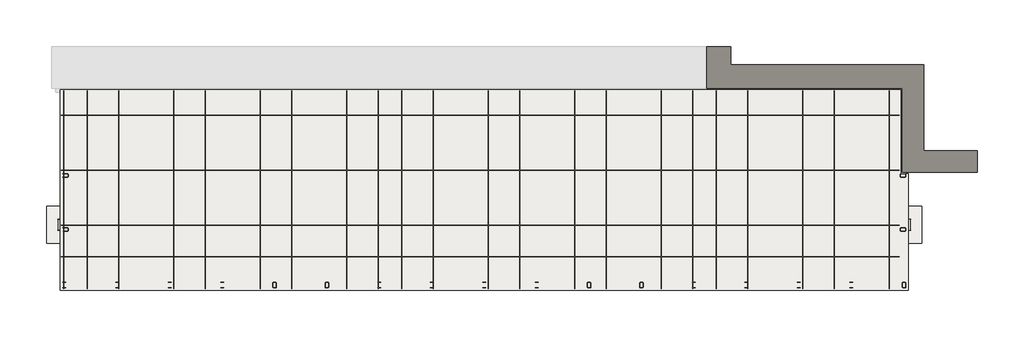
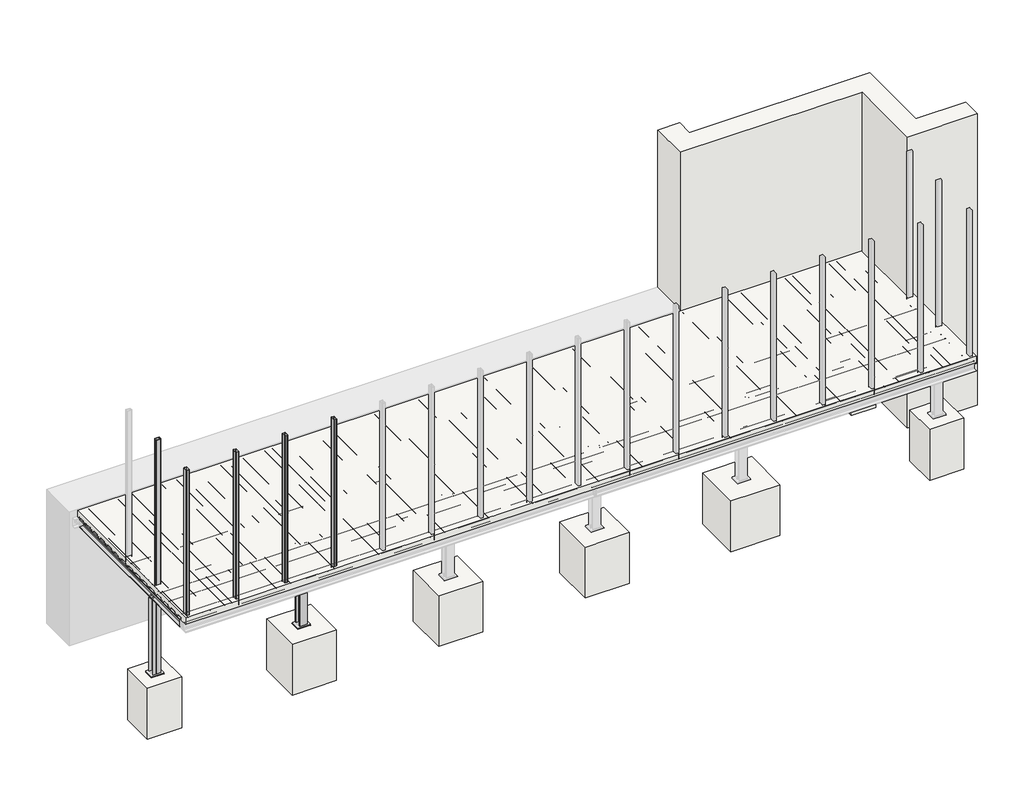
# One storey, part 1 of 36: 26 beams, 9 slabs, 7 columns, 2 plates.
"""IFC4 building model written with IfcOpenShell, lengths in millimetres."""

from ifc_helpers import new_model, si_unit, point, frame, frame_2d, origin, place, context, project, spatial, polyline, circle_curve, trimmed, segment, composite_curve, outline, extrude, faceted_brep, element, save

model = new_model("IFC4")

# Units and contexts
model_context = context("Model", 3, world=origin())
ifc_project = project(units=[si_unit("LENGTHUNIT", "METRE", prefix="MILLI")], contexts=[model_context])

# Site, building, storey
site = spatial("IfcSite", under=ifc_project)
building = spatial("IfcBuilding", under=site)
storey = spatial("IfcBuildingStorey", under=building, Name="Základy", Elevation=-1200.0)

# Beams
placement = place(None, origin())
element("IfcBeam", 1, ObjectType="D8", at=placement, inside=storey, context=model_context, shape_type="SweptSolid", body=[
    extrude(outline(composite_curve([segment(trimmed(circle_curve(frame_2d((-49.0, 27.5)), 4.0), [point((-49.0, 23.5))], [point((-49.0, 31.5))], False, "CARTESIAN"), True, "CONTINUOUS"), segment(trimmed(circle_curve(frame_2d((-49.0, 27.5)), 4.0), [point((-49.0, 31.5))], [point((-49.0, 23.5))], False, "CARTESIAN"), True, "CONTINUOUS")], self_intersect=False)), frame((0.0, 35.0, 0.0), z_axis=(0.0, 1.0, 0.0), x_axis=(0.0, 0.0, 1.0)), (0.0, 0.0, 1.0), 3780.0),
])
element("IfcBeam", 2, ObjectType="D8", at=placement, inside=storey, context=model_context, shape_type="SweptSolid", body=[
    extrude(outline(composite_curve([segment(trimmed(circle_curve(frame_2d((-49.0, 177.5)), 4.0), [point((-49.0, 173.5))], [point((-49.0, 181.5))], False, "CARTESIAN"), True, "CONTINUOUS"), segment(trimmed(circle_curve(frame_2d((-49.0, 177.5)), 4.0), [point((-49.0, 181.5))], [point((-49.0, 173.5))], False, "CARTESIAN"), True, "CONTINUOUS")], self_intersect=False)), frame((0.0, 35.0, 0.0), z_axis=(0.0, 1.0, 0.0), x_axis=(0.0, 0.0, 1.0)), (0.0, 0.0, 1.0), 3780.0),
])
element("IfcBeam", 3, ObjectType="D8", at=placement, inside=storey, context=model_context, shape_type="SweptSolid", body=[
    extrude(outline(composite_curve([segment(trimmed(circle_curve(frame_2d((-49.0, 327.5)), 4.0), [point((-49.0, 323.5))], [point((-49.0, 331.5))], False, "CARTESIAN"), True, "CONTINUOUS"), segment(trimmed(circle_curve(frame_2d((-49.0, 327.5)), 4.0), [point((-49.0, 331.5))], [point((-49.0, 323.5))], False, "CARTESIAN"), True, "CONTINUOUS")], self_intersect=False)), frame((0.0, 35.0, 0.0), z_axis=(0.0, 1.0, 0.0), x_axis=(0.0, 0.0, 1.0)), (0.0, 0.0, 1.0), 3780.0),
])
element("IfcBeam", 4, ObjectType="D8", at=placement, inside=storey, context=model_context, shape_type="SweptSolid", body=[
    extrude(outline(composite_curve([segment(trimmed(circle_curve(frame_2d((-49.0, 477.5)), 4.0), [point((-49.0, 473.5))], [point((-49.0, 481.5))], False, "CARTESIAN"), True, "CONTINUOUS"), segment(trimmed(circle_curve(frame_2d((-49.0, 477.5)), 4.0), [point((-49.0, 481.5))], [point((-49.0, 473.5))], False, "CARTESIAN"), True, "CONTINUOUS")], self_intersect=False)), frame((0.0, 35.0, 0.0), z_axis=(0.0, 1.0, 0.0), x_axis=(0.0, 0.0, 1.0)), (0.0, 0.0, 1.0), 3780.0),
])
element("IfcBeam", 5, ObjectType="D8", at=placement, inside=storey, context=model_context, shape_type="SweptSolid", body=[
    extrude(outline(composite_curve([segment(trimmed(circle_curve(frame_2d((-49.0, 627.5)), 4.0), [point((-49.0, 623.5))], [point((-49.0, 631.5))], False, "CARTESIAN"), True, "CONTINUOUS"), segment(trimmed(circle_curve(frame_2d((-49.0, 627.5)), 4.0), [point((-49.0, 631.5))], [point((-49.0, 623.5))], False, "CARTESIAN"), True, "CONTINUOUS")], self_intersect=False)), frame((0.0, 35.0, 0.0), z_axis=(0.0, 1.0, 0.0), x_axis=(0.0, 0.0, 1.0)), (0.0, 0.0, 1.0), 3780.0),
])
element("IfcBeam", 6, ObjectType="D8", at=placement, inside=storey, context=model_context, shape_type="SweptSolid", body=[
    extrude(outline(composite_curve([segment(trimmed(circle_curve(frame_2d((-49.0, 777.5)), 4.0), [point((-49.0, 773.5))], [point((-49.0, 781.5))], False, "CARTESIAN"), True, "CONTINUOUS"), segment(trimmed(circle_curve(frame_2d((-49.0, 777.5)), 4.0), [point((-49.0, 781.5))], [point((-49.0, 773.5))], False, "CARTESIAN"), True, "CONTINUOUS")], self_intersect=False)), frame((0.0, 35.0, 0.0), z_axis=(0.0, 1.0, 0.0), x_axis=(0.0, 0.0, 1.0)), (0.0, 0.0, 1.0), 3780.0),
])
element("IfcBeam", 7, ObjectType="D8", at=placement, inside=storey, context=model_context, shape_type="SweptSolid", body=[
    extrude(outline(composite_curve([segment(trimmed(circle_curve(frame_2d((-49.0, 927.5)), 4.0), [point((-49.0, 923.5))], [point((-49.0, 931.5))], False, "CARTESIAN"), True, "CONTINUOUS"), segment(trimmed(circle_curve(frame_2d((-49.0, 927.5)), 4.0), [point((-49.0, 931.5))], [point((-49.0, 923.5))], False, "CARTESIAN"), True, "CONTINUOUS")], self_intersect=False)), frame((0.0, 35.0, 0.0), z_axis=(0.0, 1.0, 0.0), x_axis=(0.0, 0.0, 1.0)), (0.0, 0.0, 1.0), 3780.0),
])
element("IfcBeam", 8, ObjectType="D8", at=placement, inside=storey, context=model_context, shape_type="SweptSolid", body=[
    extrude(outline(composite_curve([segment(trimmed(circle_curve(frame_2d((-49.0, 1077.5)), 4.0), [point((-49.0, 1073.5))], [point((-49.0, 1081.5))], False, "CARTESIAN"), True, "CONTINUOUS"), segment(trimmed(circle_curve(frame_2d((-49.0, 1077.5)), 4.0), [point((-49.0, 1081.5))], [point((-49.0, 1073.5))], False, "CARTESIAN"), True, "CONTINUOUS")], self_intersect=False)), frame((0.0, 35.0, 0.0), z_axis=(0.0, 1.0, 0.0), x_axis=(0.0, 0.0, 1.0)), (0.0, 0.0, 1.0), 3780.0),
])
element("IfcBeam", 9, ObjectType="D8", at=placement, inside=storey, context=model_context, shape_type="SweptSolid", body=[
    extrude(outline(composite_curve([segment(trimmed(circle_curve(frame_2d((-49.0, 1227.5)), 4.0), [point((-49.0, 1223.5))], [point((-49.0, 1231.5))], False, "CARTESIAN"), True, "CONTINUOUS"), segment(trimmed(circle_curve(frame_2d((-49.0, 1227.5)), 4.0), [point((-49.0, 1231.5))], [point((-49.0, 1223.5))], False, "CARTESIAN"), True, "CONTINUOUS")], self_intersect=False)), frame((0.0, 35.0, 0.0), z_axis=(0.0, 1.0, 0.0), x_axis=(0.0, 0.0, 1.0)), (0.0, 0.0, 1.0), 3780.0),
])
element("IfcBeam", 10, ObjectType="D8", at=placement, inside=storey, context=model_context, shape_type="SweptSolid", body=[
    extrude(outline(composite_curve([segment(trimmed(circle_curve(frame_2d((-49.0, 1377.5)), 4.0), [point((-49.0, 1373.5))], [point((-49.0, 1381.5))], False, "CARTESIAN"), True, "CONTINUOUS"), segment(trimmed(circle_curve(frame_2d((-49.0, 1377.5)), 4.0), [point((-49.0, 1381.5))], [point((-49.0, 1373.5))], False, "CARTESIAN"), True, "CONTINUOUS")], self_intersect=False)), frame((0.0, 35.0, 0.0), z_axis=(0.0, 1.0, 0.0), x_axis=(0.0, 0.0, 1.0)), (0.0, 0.0, 1.0), 3780.0),
])
element("IfcBeam", 11, ObjectType="D8", at=placement, inside=storey, context=model_context, shape_type="SweptSolid", body=[
    extrude(outline(composite_curve([segment(trimmed(circle_curve(frame_2d((-49.0, 1527.5)), 4.0), [point((-49.0, 1523.5))], [point((-49.0, 1531.5))], False, "CARTESIAN"), True, "CONTINUOUS"), segment(trimmed(circle_curve(frame_2d((-49.0, 1527.5)), 4.0), [point((-49.0, 1531.5))], [point((-49.0, 1523.5))], False, "CARTESIAN"), True, "CONTINUOUS")], self_intersect=False)), frame((0.0, 35.0, 0.0), z_axis=(0.0, 1.0, 0.0), x_axis=(0.0, 0.0, 1.0)), (0.0, 0.0, 1.0), 3780.0),
])
element("IfcBeam", 12, ObjectType="D8", at=placement, inside=storey, context=model_context, shape_type="SweptSolid", body=[
    extrude(outline(composite_curve([segment(trimmed(circle_curve(frame_2d((-49.0, 1677.5)), 4.0), [point((-49.0, 1673.5))], [point((-49.0, 1681.5))], False, "CARTESIAN"), True, "CONTINUOUS"), segment(trimmed(circle_curve(frame_2d((-49.0, 1677.5)), 4.0), [point((-49.0, 1681.5))], [point((-49.0, 1673.5))], False, "CARTESIAN"), True, "CONTINUOUS")], self_intersect=False)), frame((0.0, 35.0, 0.0), z_axis=(0.0, 1.0, 0.0), x_axis=(0.0, 0.0, 1.0)), (0.0, 0.0, 1.0), 3780.0),
])
element("IfcBeam", 13, ObjectType="D8", at=placement, inside=storey, context=model_context, shape_type="SweptSolid", body=[
    extrude(outline(composite_curve([segment(trimmed(circle_curve(frame_2d((-49.0, 1827.5)), 4.0), [point((-49.0, 1823.5))], [point((-49.0, 1831.5))], False, "CARTESIAN"), True, "CONTINUOUS"), segment(trimmed(circle_curve(frame_2d((-49.0, 1827.5)), 4.0), [point((-49.0, 1831.5))], [point((-49.0, 1823.5))], False, "CARTESIAN"), True, "CONTINUOUS")], self_intersect=False)), frame((0.0, 35.0, 0.0), z_axis=(0.0, 1.0, 0.0), x_axis=(0.0, 0.0, 1.0)), (0.0, 0.0, 1.0), 3780.0),
])
element("IfcBeam", 14, ObjectType="D8", at=placement, inside=storey, context=model_context, shape_type="SweptSolid", body=[
    extrude(outline(composite_curve([segment(trimmed(circle_curve(frame_2d((-49.0, 1977.5)), 4.0), [point((-49.0, 1973.5))], [point((-49.0, 1981.5))], False, "CARTESIAN"), True, "CONTINUOUS"), segment(trimmed(circle_curve(frame_2d((-49.0, 1977.5)), 4.0), [point((-49.0, 1981.5))], [point((-49.0, 1973.5))], False, "CARTESIAN"), True, "CONTINUOUS")], self_intersect=False)), frame((0.0, 35.0, 0.0), z_axis=(0.0, 1.0, 0.0), x_axis=(0.0, 0.0, 1.0)), (0.0, 0.0, 1.0), 3780.0),
])
element("IfcBeam", 15, ObjectType="D8", at=placement, inside=storey, context=model_context, shape_type="SweptSolid", body=[
    extrude(outline(composite_curve([segment(trimmed(circle_curve(frame_2d((-49.0, 2127.5)), 4.0), [point((-49.0, 2123.5))], [point((-49.0, 2131.5))], False, "CARTESIAN"), True, "CONTINUOUS"), segment(trimmed(circle_curve(frame_2d((-49.0, 2127.5)), 4.0), [point((-49.0, 2131.5))], [point((-49.0, 2123.5))], False, "CARTESIAN"), True, "CONTINUOUS")], self_intersect=False)), frame((0.0, 35.0, 0.0), z_axis=(0.0, 1.0, 0.0), x_axis=(0.0, 0.0, 1.0)), (0.0, 0.0, 1.0), 3780.0),
])
element("IfcBeam", 16, ObjectType="D8", at=placement, inside=storey, context=model_context, shape_type="SweptSolid", body=[
    extrude(outline(composite_curve([segment(trimmed(circle_curve(frame_2d((-49.0, 2277.5)), 4.0), [point((-49.0, 2273.5))], [point((-49.0, 2281.5))], False, "CARTESIAN"), True, "CONTINUOUS"), segment(trimmed(circle_curve(frame_2d((-49.0, 2277.5)), 4.0), [point((-49.0, 2281.5))], [point((-49.0, 2273.5))], False, "CARTESIAN"), True, "CONTINUOUS")], self_intersect=False)), frame((0.0, 35.0, 0.0), z_axis=(0.0, 1.0, 0.0), x_axis=(0.0, 0.0, 1.0)), (0.0, 0.0, 1.0), 3780.0),
])
element("IfcBeam", 17, ObjectType="D8", at=placement, inside=storey, context=model_context, shape_type="SweptSolid", body=[
    extrude(outline(composite_curve([segment(trimmed(circle_curve(frame_2d((-49.0, 2427.5)), 4.0), [point((-49.0, 2423.5))], [point((-49.0, 2431.5))], False, "CARTESIAN"), True, "CONTINUOUS"), segment(trimmed(circle_curve(frame_2d((-49.0, 2427.5)), 4.0), [point((-49.0, 2431.5))], [point((-49.0, 2423.5))], False, "CARTESIAN"), True, "CONTINUOUS")], self_intersect=False)), frame((0.0, 35.0, 0.0), z_axis=(0.0, 1.0, 0.0), x_axis=(0.0, 0.0, 1.0)), (0.0, 0.0, 1.0), 3780.0),
])
element("IfcBeam", 18, ObjectType="D8", at=placement, inside=storey, context=model_context, shape_type="SweptSolid", body=[
    extrude(outline(composite_curve([segment(trimmed(circle_curve(frame_2d((-49.0, 2577.5)), 4.0), [point((-49.0, 2573.5))], [point((-49.0, 2581.5))], False, "CARTESIAN"), True, "CONTINUOUS"), segment(trimmed(circle_curve(frame_2d((-49.0, 2577.5)), 4.0), [point((-49.0, 2581.5))], [point((-49.0, 2573.5))], False, "CARTESIAN"), True, "CONTINUOUS")], self_intersect=False)), frame((0.0, 35.0, 0.0), z_axis=(0.0, 1.0, 0.0), x_axis=(0.0, 0.0, 1.0)), (0.0, 0.0, 1.0), 3780.0),
])
element("IfcBeam", 19, ObjectType="D8", at=placement, inside=storey, context=model_context, shape_type="SweptSolid", body=[
    extrude(outline(composite_curve([segment(trimmed(circle_curve(frame_2d((-49.0, 2727.5)), 4.0), [point((-49.0, 2723.5))], [point((-49.0, 2731.5))], False, "CARTESIAN"), True, "CONTINUOUS"), segment(trimmed(circle_curve(frame_2d((-49.0, 2727.5)), 4.0), [point((-49.0, 2731.5))], [point((-49.0, 2723.5))], False, "CARTESIAN"), True, "CONTINUOUS")], self_intersect=False)), frame((0.0, 35.0, 0.0), z_axis=(0.0, 1.0, 0.0), x_axis=(0.0, 0.0, 1.0)), (0.0, 0.0, 1.0), 3780.0),
])
element("IfcBeam", 20, ObjectType="D8", at=placement, inside=storey, context=model_context, shape_type="SweptSolid", body=[
    extrude(outline(composite_curve([segment(trimmed(circle_curve(frame_2d((-49.0, 2877.5)), 4.0), [point((-49.0, 2873.5))], [point((-49.0, 2881.5))], False, "CARTESIAN"), True, "CONTINUOUS"), segment(trimmed(circle_curve(frame_2d((-49.0, 2877.5)), 4.0), [point((-49.0, 2881.5))], [point((-49.0, 2873.5))], False, "CARTESIAN"), True, "CONTINUOUS")], self_intersect=False)), frame((0.0, 35.0, 0.0), z_axis=(0.0, 1.0, 0.0), x_axis=(0.0, 0.0, 1.0)), (0.0, 0.0, 1.0), 3780.0),
])
element("IfcBeam", 21, ObjectType="D8", at=placement, inside=storey, context=model_context, shape_type="SweptSolid", body=[
    extrude(outline(composite_curve([segment(trimmed(circle_curve(frame_2d((-49.0, 3027.5)), 4.0), [point((-49.0, 3023.5))], [point((-49.0, 3031.5))], False, "CARTESIAN"), True, "CONTINUOUS"), segment(trimmed(circle_curve(frame_2d((-49.0, 3027.5)), 4.0), [point((-49.0, 3031.5))], [point((-49.0, 3023.5))], False, "CARTESIAN"), True, "CONTINUOUS")], self_intersect=False)), frame((0.0, 35.0, 0.0), z_axis=(0.0, 1.0, 0.0), x_axis=(0.0, 0.0, 1.0)), (0.0, 0.0, 1.0), 3780.0),
])
element("IfcBeam", 22, ObjectType="HEA120", at=placement, inside=storey, context=model_context, shape_type="SweptSolid", body=[
    extrude(outline(composite_curve([segment(polyline([(1200.0, -193.0), (1320.0, -193.0), (1320.0, -201.0), (1274.5, -201.0)]), True, "CONTINUOUS"), segment(trimmed(circle_curve(frame_2d((1274.5, -213.0)), 12.0), [point((1274.5, -201.0))], [point((1262.5, -213.0))], True, "CARTESIAN"), True, "CONTINUOUS"), segment(polyline([(1262.5, -213.0), (1262.5, -287.0)]), True, "CONTINUOUS"), segment(trimmed(circle_curve(frame_2d((1274.5, -287.0)), 12.0), [point((1262.5, -287.0))], [point((1274.5, -299.0))], True, "CARTESIAN"), True, "CONTINUOUS"), segment(polyline([(1274.5, -299.0), (1320.0, -299.0), (1320.0, -307.0), (1200.0, -307.0), (1200.0, -299.0), (1245.5, -299.0)]), True, "CONTINUOUS"), segment(trimmed(circle_curve(frame_2d((1245.5, -287.0)), 12.0), [point((1245.5, -299.0))], [point((1257.5, -287.0))], True, "CARTESIAN"), True, "CONTINUOUS"), segment(polyline([(1257.5, -287.0), (1257.5, -213.0)]), True, "CONTINUOUS"), segment(trimmed(circle_curve(frame_2d((1245.5, -213.0)), 12.0), [point((1257.5, -213.0))], [point((1245.5, -201.0))], True, "CARTESIAN"), True, "CONTINUOUS"), segment(polyline([(1245.5, -201.0), (1200.0, -201.0), (1200.0, -193.0)]), True, "CONTINUOUS")], self_intersect=False)), frame((160.0, 0.0, 0.0), z_axis=(1.0, 0.0, 0.0), x_axis=(0.0, 1.0, 0.0)), (0.0, 0.0, 1.0), 2780.0),
])
element("IfcBeam", 23, ObjectType="HEB180", at=placement, inside=storey, context=model_context, shape_type="SweptSolid", body=[
    extrude(outline(composite_curve([segment(polyline([(-340.0, 3140.0), (-326.0, 3140.0), (-326.0, 3069.25)]), True, "CONTINUOUS"), segment(trimmed(circle_curve(frame_2d((-311.0, 3069.25)), 15.0), [point((-326.0, 3069.25))], [point((-311.0, 3054.25))], True, "CARTESIAN"), True, "CONTINUOUS"), segment(polyline([(-311.0, 3054.25), (-189.0, 3054.25)]), True, "CONTINUOUS"), segment(trimmed(circle_curve(frame_2d((-189.0, 3069.25)), 15.0), [point((-189.0, 3054.25))], [point((-174.0, 3069.25))], True, "CARTESIAN"), True, "CONTINUOUS"), segment(polyline([(-174.0, 3069.25), (-174.0, 3140.0), (-160.0, 3140.0), (-160.0, 2960.0), (-174.0, 2960.0), (-174.0, 3030.75)]), True, "CONTINUOUS"), segment(trimmed(circle_curve(frame_2d((-189.0, 3030.75)), 15.0), [point((-174.0, 3030.75))], [point((-189.0, 3045.75))], True, "CARTESIAN"), True, "CONTINUOUS"), segment(polyline([(-189.0, 3045.75), (-311.0, 3045.75)]), True, "CONTINUOUS"), segment(trimmed(circle_curve(frame_2d((-311.0, 3030.75)), 15.0), [point((-311.0, 3045.75))], [point((-326.0, 3030.75))], True, "CARTESIAN"), True, "CONTINUOUS"), segment(polyline([(-326.0, 3030.75), (-326.0, 2960.0), (-340.0, 2960.0), (-340.0, 3140.0)]), True, "CONTINUOUS")], self_intersect=False)), frame((0.0, 210.0, 0.0), z_axis=(0.0, 1.0, 0.0), x_axis=(0.0, 0.0, 1.0)), (0.0, 0.0, 1.0), 3557.0),
])
element("IfcBeam", 24, ObjectType="HEB180", at=placement, inside=storey, context=model_context, shape_type="SweptSolid", body=[
    extrude(outline(composite_curve([segment(polyline([(-340.0, -40.0), (-340.0, 140.0), (-326.0, 140.0), (-326.0, 69.25)]), True, "CONTINUOUS"), segment(trimmed(circle_curve(frame_2d((-311.0, 69.25)), 15.0), [point((-326.0, 69.25))], [point((-311.0, 54.25))], True, "CARTESIAN"), True, "CONTINUOUS"), segment(polyline([(-311.0, 54.25), (-189.0, 54.25)]), True, "CONTINUOUS"), segment(trimmed(circle_curve(frame_2d((-189.0, 69.25)), 15.0), [point((-189.0, 54.25))], [point((-174.0, 69.25))], True, "CARTESIAN"), True, "CONTINUOUS"), segment(polyline([(-174.0, 69.25), (-174.0, 140.0), (-160.0, 140.0), (-160.0, -40.0), (-174.0, -40.0), (-174.0, 30.75)]), True, "CONTINUOUS"), segment(trimmed(circle_curve(frame_2d((-189.0, 30.75)), 15.0), [point((-174.0, 30.75))], [point((-189.0, 45.75))], True, "CARTESIAN"), True, "CONTINUOUS"), segment(polyline([(-189.0, 45.75), (-311.0, 45.75)]), True, "CONTINUOUS"), segment(trimmed(circle_curve(frame_2d((-311.0, 30.75)), 15.0), [point((-311.0, 45.75))], [point((-326.0, 30.75))], True, "CARTESIAN"), True, "CONTINUOUS"), segment(polyline([(-326.0, 30.75), (-326.0, -40.0), (-340.0, -40.0)]), True, "CONTINUOUS")], self_intersect=False)), frame((0.0, 210.0, 0.0), z_axis=(0.0, 1.0, 0.0), x_axis=(0.0, 0.0, 1.0)), (0.0, 0.0, 1.0), 3557.0),
])
element("IfcBeam", 25, ObjectType="TR50/250", at=placement, inside=storey, context=model_context, shape_type="SweptSolid", body=[
    extrude(outline(polyline([(1802.7875602, -160.0099992), (1772.2875602, -111.5000008), (1637.6975638, -111.5000008), (1607.1975638, -160.0000008), (1552.7875754, -160.0000008), (1522.2875754, -111.5000008), (1387.6975715, -111.5000008), (1357.1975715, -160.0000008), (1302.7875697, -160.0000008), (1272.2875716, -111.5000008), (1137.6975638, -111.5000008), (1107.1975638, -160.0000008), (1052.7875602, -160.0000008), (1022.2875602, -111.5000008), (887.6975638, -111.5000008), (857.1975638, -160.0000008), (802.7875602, -160.0000008), (790.7375724, -139.4300002), (803.1975638, -159.2500008), (856.7875602, -159.2500008), (887.2875602, -110.7500008), (1022.6975638, -110.7500008), (1053.1975638, -159.2500008), (1106.7875754, -159.2500008), (1137.2875754, -110.7500008), (1272.6975715, -110.7500008), (1303.1975695, -159.2500008), (1356.7875716, -159.2500008), (1387.2875678, -110.7500008), (1522.6975638, -110.7500008), (1553.1975638, -159.2500008), (1606.7875602, -159.2500008), (1637.2875602, -110.7500008), (1772.6975638, -110.7500008), (1803.1975638, -159.2500008), (1839.9975821, -160.0000008), (1802.7875602, -160.0099992)])), frame((-40.0, 0.0, 0.0), z_axis=(1.0, 0.0, 0.0), x_axis=(0.0, 1.0, 0.0)), (0.0, 0.0, 1.0), 3180.0),
])
element("IfcBeam", 26, ObjectType="TR50/250", at=placement, inside=storey, context=model_context, shape_type="SweptSolid", body=[
    extrude(outline(polyline([(802.7875602, -160.0099992), (772.2875602, -111.5000008), (637.6975638, -111.5000008), (607.1975638, -160.0000008), (552.7875754, -160.0000008), (522.2875754, -111.5000008), (387.6975715, -111.5000008), (357.1975715, -160.0000008), (302.7875697, -160.0000008), (272.2875716, -111.5000008), (160.0, -111.5000008), (160.0, -110.7500008), (272.6975715, -110.7500008), (303.1975695, -159.2500008), (356.7875716, -159.2500008), (387.2875678, -110.7500008), (522.6975638, -110.7500008), (553.1975638, -159.2500008), (606.7875602, -159.2500008), (637.2875602, -110.7500008), (772.6975638, -110.7500008), (803.1975638, -159.2500008), (839.9975821, -160.0000008), (802.7875602, -160.0099992)])), frame((-40.0, 0.0, 0.0), z_axis=(1.0, 0.0, 0.0), x_axis=(0.0, 1.0, 0.0)), (0.0, 0.0, 1.0), 3180.0),
])

# Columns
element("IfcColumn", 27, ObjectType="RHS100*60*3.2", at=placement, inside=storey, context=model_context, shape_type="SweptSolid", body=[
    extrude(outline(composite_curve([segment(polyline([(3073.6, 60.0), (3026.4, 60.0)]), True, "CONTINUOUS"), segment(trimmed(circle_curve(frame_2d((3026.4, 66.4)), 6.4), [point((3026.4, 60.0))], [point((3020.0, 66.4))], False, "CARTESIAN"), True, "CONTINUOUS"), segment(polyline([(3020.0, 66.4), (3020.0, 153.6)]), True, "CONTINUOUS"), segment(trimmed(circle_curve(frame_2d((3026.4, 153.6)), 6.4), [point((3020.0, 153.6))], [point((3026.4, 160.0))], False, "CARTESIAN"), True, "CONTINUOUS"), segment(polyline([(3026.4, 160.0), (3073.6, 160.0)]), True, "CONTINUOUS"), segment(trimmed(circle_curve(frame_2d((3073.6, 153.6)), 6.4), [point((3073.6, 160.0))], [point((3080.0, 153.6))], False, "CARTESIAN"), True, "CONTINUOUS"), segment(polyline([(3080.0, 153.6), (3080.0, 66.4)]), True, "CONTINUOUS"), segment(trimmed(circle_curve(frame_2d((3073.6, 66.4)), 6.4), [point((3080.0, 66.4))], [point((3073.6, 60.0))], False, "CARTESIAN"), True, "CONTINUOUS")], self_intersect=False), holes=[composite_curve([segment(trimmed(circle_curve(frame_2d((3073.6, 66.4)), 3.2), [point((3073.6, 63.2))], [point((3076.8, 66.4))], True, "CARTESIAN"), True, "CONTINUOUS"), segment(polyline([(3076.8, 66.4), (3076.8, 153.6)]), True, "CONTINUOUS"), segment(trimmed(circle_curve(frame_2d((3073.6, 153.6)), 3.2), [point((3076.8, 153.6))], [point((3073.6, 156.8))], True, "CARTESIAN"), True, "CONTINUOUS"), segment(polyline([(3073.6, 156.8), (3026.4, 156.8)]), True, "CONTINUOUS"), segment(trimmed(circle_curve(frame_2d((3026.4, 153.6)), 3.2), [point((3026.4, 156.8))], [point((3023.2, 153.6))], True, "CARTESIAN"), True, "CONTINUOUS"), segment(polyline([(3023.2, 153.6), (3023.2, 66.4)]), True, "CONTINUOUS"), segment(trimmed(circle_curve(frame_2d((3026.4, 66.4)), 3.2), [point((3023.2, 66.4))], [point((3026.4, 63.2))], True, "CARTESIAN"), True, "CONTINUOUS"), segment(polyline([(3026.4, 63.2), (3073.6, 63.2)]), True, "CONTINUOUS")], self_intersect=False)]), frame((0.0, 0.0, -160.0), z_axis=(0.0, 0.0, 1.0), x_axis=(1.0, 0.0, 0.0)), (0.0, 0.0, 1.0), 3320.0),
])
element("IfcColumn", 28, ObjectType="RHS100*60*3.2", at=placement, inside=storey, context=model_context, shape_type="SweptSolid", body=[
    extrude(outline(composite_curve([segment(polyline([(10.0, 1146.4), (10.0, 1193.6)]), True, "CONTINUOUS"), segment(trimmed(circle_curve(frame_2d((16.4, 1193.6)), 6.4), [point((10.0, 1193.6))], [point((16.4, 1200.0))], False, "CARTESIAN"), True, "CONTINUOUS"), segment(polyline([(16.4, 1200.0), (103.6, 1200.0)]), True, "CONTINUOUS"), segment(trimmed(circle_curve(frame_2d((103.6, 1193.6)), 6.4), [point((103.6, 1200.0))], [point((110.0, 1193.6))], False, "CARTESIAN"), True, "CONTINUOUS"), segment(polyline([(110.0, 1193.6), (110.0, 1146.4)]), True, "CONTINUOUS"), segment(trimmed(circle_curve(frame_2d((103.6, 1146.4)), 6.4), [point((110.0, 1146.4))], [point((103.6, 1140.0))], False, "CARTESIAN"), True, "CONTINUOUS"), segment(polyline([(103.6, 1140.0), (16.4, 1140.0)]), True, "CONTINUOUS"), segment(trimmed(circle_curve(frame_2d((16.4, 1146.4)), 6.4), [point((16.4, 1140.0))], [point((10.0, 1146.4))], False, "CARTESIAN"), True, "CONTINUOUS")], self_intersect=False), holes=[composite_curve([segment(trimmed(circle_curve(frame_2d((16.4, 1146.4)), 3.2), [point((13.2, 1146.4))], [point((16.4, 1143.2))], True, "CARTESIAN"), True, "CONTINUOUS"), segment(polyline([(16.4, 1143.2), (103.6, 1143.2)]), True, "CONTINUOUS"), segment(trimmed(circle_curve(frame_2d((103.6, 1146.4)), 3.2), [point((103.6, 1143.2))], [point((106.8, 1146.4))], True, "CARTESIAN"), True, "CONTINUOUS"), segment(polyline([(106.8, 1146.4), (106.8, 1193.6)]), True, "CONTINUOUS"), segment(trimmed(circle_curve(frame_2d((103.6, 1193.6)), 3.2), [point((106.8, 1193.6))], [point((103.6, 1196.8))], True, "CARTESIAN"), True, "CONTINUOUS"), segment(polyline([(103.6, 1196.8), (16.4, 1196.8)]), True, "CONTINUOUS"), segment(trimmed(circle_curve(frame_2d((16.4, 1193.6)), 3.2), [point((16.4, 1196.8))], [point((13.2, 1193.6))], True, "CARTESIAN"), True, "CONTINUOUS"), segment(polyline([(13.2, 1193.6), (13.2, 1146.4)]), True, "CONTINUOUS")], self_intersect=False)]), frame((0.0, 0.0, -160.0), z_axis=(0.0, 0.0, 1.0), x_axis=(1.0, 0.0, 0.0)), (0.0, 0.0, 1.0), 3280.0),
])
element("IfcColumn", 29, ObjectType="RHS100*60*3.2", at=placement, inside=storey, context=model_context, shape_type="SweptSolid", body=[
    extrude(outline(composite_curve([segment(polyline([(2073.6, 60.0), (2026.4, 60.0)]), True, "CONTINUOUS"), segment(trimmed(circle_curve(frame_2d((2026.4, 66.4)), 6.4), [point((2026.4, 60.0))], [point((2020.0, 66.4))], False, "CARTESIAN"), True, "CONTINUOUS"), segment(polyline([(2020.0, 66.4), (2020.0, 153.6)]), True, "CONTINUOUS"), segment(trimmed(circle_curve(frame_2d((2026.4, 153.6)), 6.4), [point((2020.0, 153.6))], [point((2026.4, 160.0))], False, "CARTESIAN"), True, "CONTINUOUS"), segment(polyline([(2026.4, 160.0), (2073.6, 160.0)]), True, "CONTINUOUS"), segment(trimmed(circle_curve(frame_2d((2073.6, 153.6)), 6.4), [point((2073.6, 160.0))], [point((2080.0, 153.6))], False, "CARTESIAN"), True, "CONTINUOUS"), segment(polyline([(2080.0, 153.6), (2080.0, 66.4)]), True, "CONTINUOUS"), segment(trimmed(circle_curve(frame_2d((2073.6, 66.4)), 6.4), [point((2080.0, 66.4))], [point((2073.6, 60.0))], False, "CARTESIAN"), True, "CONTINUOUS")], self_intersect=False), holes=[composite_curve([segment(trimmed(circle_curve(frame_2d((2073.6, 66.4)), 3.2), [point((2073.6, 63.2))], [point((2076.8, 66.4))], True, "CARTESIAN"), True, "CONTINUOUS"), segment(polyline([(2076.8, 66.4), (2076.8, 153.6)]), True, "CONTINUOUS"), segment(trimmed(circle_curve(frame_2d((2073.6, 153.6)), 3.2), [point((2076.8, 153.6))], [point((2073.6, 156.8))], True, "CARTESIAN"), True, "CONTINUOUS"), segment(polyline([(2073.6, 156.8), (2026.4, 156.8)]), True, "CONTINUOUS"), segment(trimmed(circle_curve(frame_2d((2026.4, 153.6)), 3.2), [point((2026.4, 156.8))], [point((2023.2, 153.6))], True, "CARTESIAN"), True, "CONTINUOUS"), segment(polyline([(2023.2, 153.6), (2023.2, 66.4)]), True, "CONTINUOUS"), segment(trimmed(circle_curve(frame_2d((2026.4, 66.4)), 3.2), [point((2023.2, 66.4))], [point((2026.4, 63.2))], True, "CARTESIAN"), True, "CONTINUOUS"), segment(polyline([(2026.4, 63.2), (2073.6, 63.2)]), True, "CONTINUOUS")], self_intersect=False)]), frame((0.0, 0.0, -160.0), z_axis=(0.0, 0.0, 1.0), x_axis=(1.0, 0.0, 0.0)), (0.0, 0.0, 1.0), 3320.0),
])
element("IfcColumn", 30, ObjectType="RHS100*60*3.2", at=placement, inside=storey, context=model_context, shape_type="SweptSolid", body=[
    extrude(outline(composite_curve([segment(polyline([(1073.6, 60.0), (1026.4, 60.0)]), True, "CONTINUOUS"), segment(trimmed(circle_curve(frame_2d((1026.4, 66.4)), 6.4), [point((1026.4, 60.0))], [point((1020.0, 66.4))], False, "CARTESIAN"), True, "CONTINUOUS"), segment(polyline([(1020.0, 66.4), (1020.0, 153.6)]), True, "CONTINUOUS"), segment(trimmed(circle_curve(frame_2d((1026.4, 153.6)), 6.4), [point((1020.0, 153.6))], [point((1026.4, 160.0))], False, "CARTESIAN"), True, "CONTINUOUS"), segment(polyline([(1026.4, 160.0), (1073.6, 160.0)]), True, "CONTINUOUS"), segment(trimmed(circle_curve(frame_2d((1073.6, 153.6)), 6.4), [point((1073.6, 160.0))], [point((1080.0, 153.6))], False, "CARTESIAN"), True, "CONTINUOUS"), segment(polyline([(1080.0, 153.6), (1080.0, 66.4)]), True, "CONTINUOUS"), segment(trimmed(circle_curve(frame_2d((1073.6, 66.4)), 6.4), [point((1080.0, 66.4))], [point((1073.6, 60.0))], False, "CARTESIAN"), True, "CONTINUOUS")], self_intersect=False), holes=[composite_curve([segment(trimmed(circle_curve(frame_2d((1073.6, 66.4)), 3.2), [point((1073.6, 63.2))], [point((1076.8, 66.4))], True, "CARTESIAN"), True, "CONTINUOUS"), segment(polyline([(1076.8, 66.4), (1076.8, 153.6)]), True, "CONTINUOUS"), segment(trimmed(circle_curve(frame_2d((1073.6, 153.6)), 3.2), [point((1076.8, 153.6))], [point((1073.6, 156.8))], True, "CARTESIAN"), True, "CONTINUOUS"), segment(polyline([(1073.6, 156.8), (1026.4, 156.8)]), True, "CONTINUOUS"), segment(trimmed(circle_curve(frame_2d((1026.4, 153.6)), 3.2), [point((1026.4, 156.8))], [point((1023.2, 153.6))], True, "CARTESIAN"), True, "CONTINUOUS"), segment(polyline([(1023.2, 153.6), (1023.2, 66.4)]), True, "CONTINUOUS"), segment(trimmed(circle_curve(frame_2d((1026.4, 66.4)), 3.2), [point((1023.2, 66.4))], [point((1026.4, 63.2))], True, "CARTESIAN"), True, "CONTINUOUS"), segment(polyline([(1026.4, 63.2), (1073.6, 63.2)]), True, "CONTINUOUS")], self_intersect=False)]), frame((0.0, 0.0, -160.0), z_axis=(0.0, 0.0, 1.0), x_axis=(1.0, 0.0, 0.0)), (0.0, 0.0, 1.0), 3320.0),
])
element("IfcColumn", 31, ObjectType="RHS100*60*3.2", at=placement, inside=storey, context=model_context, shape_type="SweptSolid", body=[
    extrude(outline(composite_curve([segment(polyline([(63.6, 60.0), (16.4, 60.0)]), True, "CONTINUOUS"), segment(trimmed(circle_curve(frame_2d((16.4, 66.4)), 6.4), [point((16.4, 60.0))], [point((10.0, 66.4))], False, "CARTESIAN"), True, "CONTINUOUS"), segment(polyline([(10.0, 66.4), (10.0, 153.6)]), True, "CONTINUOUS"), segment(trimmed(circle_curve(frame_2d((16.4, 153.6)), 6.4), [point((10.0, 153.6))], [point((16.4, 160.0))], False, "CARTESIAN"), True, "CONTINUOUS"), segment(polyline([(16.4, 160.0), (63.6, 160.0)]), True, "CONTINUOUS"), segment(trimmed(circle_curve(frame_2d((63.6, 153.6)), 6.4), [point((63.6, 160.0))], [point((70.0, 153.6))], False, "CARTESIAN"), True, "CONTINUOUS"), segment(polyline([(70.0, 153.6), (70.0, 66.4)]), True, "CONTINUOUS"), segment(trimmed(circle_curve(frame_2d((63.6, 66.4)), 6.4), [point((70.0, 66.4))], [point((63.6, 60.0))], False, "CARTESIAN"), True, "CONTINUOUS")], self_intersect=False), holes=[composite_curve([segment(trimmed(circle_curve(frame_2d((63.6, 66.4)), 3.2), [point((63.6, 63.2))], [point((66.8, 66.4))], True, "CARTESIAN"), True, "CONTINUOUS"), segment(polyline([(66.8, 66.4), (66.8, 153.6)]), True, "CONTINUOUS"), segment(trimmed(circle_curve(frame_2d((63.6, 153.6)), 3.2), [point((66.8, 153.6))], [point((63.6, 156.8))], True, "CARTESIAN"), True, "CONTINUOUS"), segment(polyline([(63.6, 156.8), (16.4, 156.8)]), True, "CONTINUOUS"), segment(trimmed(circle_curve(frame_2d((16.4, 153.6)), 3.2), [point((16.4, 156.8))], [point((13.2, 153.6))], True, "CARTESIAN"), True, "CONTINUOUS"), segment(polyline([(13.2, 153.6), (13.2, 66.4)]), True, "CONTINUOUS"), segment(trimmed(circle_curve(frame_2d((16.4, 66.4)), 3.2), [point((13.2, 66.4))], [point((16.4, 63.2))], True, "CARTESIAN"), True, "CONTINUOUS"), segment(polyline([(16.4, 63.2), (63.6, 63.2)]), True, "CONTINUOUS")], self_intersect=False)]), frame((0.0, 0.0, -160.0), z_axis=(0.0, 0.0, 1.0), x_axis=(1.0, 0.0, 0.0)), (0.0, 0.0, 1.0), 3280.0),
])
element("IfcColumn", 32, ObjectType="HEA160", at=placement, inside=storey, context=model_context, shape_type="SweptSolid", body=[
    extrude(outline(composite_curve([segment(polyline([(3130.0, 1184.0), (2970.0, 1184.0), (2970.0, 1193.0), (3032.0, 1193.0)]), True, "CONTINUOUS"), segment(trimmed(circle_curve(frame_2d((3032.0, 1208.0)), 15.0), [point((3032.0, 1193.0))], [point((3047.0, 1208.0))], True, "CARTESIAN"), True, "CONTINUOUS"), segment(polyline([(3047.0, 1208.0), (3047.0, 1312.0)]), True, "CONTINUOUS"), segment(trimmed(circle_curve(frame_2d((3032.0, 1312.0)), 15.0), [point((3047.0, 1312.0))], [point((3032.0, 1327.0))], True, "CARTESIAN"), True, "CONTINUOUS"), segment(polyline([(3032.0, 1327.0), (2970.0, 1327.0), (2970.0, 1336.0), (3130.0, 1336.0), (3130.0, 1327.0), (3068.0, 1327.0)]), True, "CONTINUOUS"), segment(trimmed(circle_curve(frame_2d((3068.0, 1312.0)), 15.0), [point((3068.0, 1327.0))], [point((3053.0, 1312.0))], True, "CARTESIAN"), True, "CONTINUOUS"), segment(polyline([(3053.0, 1312.0), (3053.0, 1208.0)]), True, "CONTINUOUS"), segment(trimmed(circle_curve(frame_2d((3068.0, 1208.0)), 15.0), [point((3053.0, 1208.0))], [point((3068.0, 1193.0))], True, "CARTESIAN"), True, "CONTINUOUS"), segment(polyline([(3068.0, 1193.0), (3130.0, 1193.0), (3130.0, 1184.0)]), True, "CONTINUOUS")], self_intersect=False)), frame((0.0, 0.0, -1975.0), z_axis=(0.0, 0.0, 1.0), x_axis=(1.0, 0.0, 0.0)), (0.0, 0.0, 1.0), 1625.0),
])
element("IfcColumn", 33, ObjectType="HEA160", at=placement, inside=storey, context=model_context, shape_type="SweptSolid", body=[
    extrude(outline(composite_curve([segment(polyline([(130.0, 1184.0), (-30.0, 1184.0), (-30.0, 1193.0), (32.0, 1193.0)]), True, "CONTINUOUS"), segment(trimmed(circle_curve(frame_2d((32.0, 1208.0)), 15.0), [point((32.0, 1193.0))], [point((47.0, 1208.0))], True, "CARTESIAN"), True, "CONTINUOUS"), segment(polyline([(47.0, 1208.0), (47.0, 1312.0)]), True, "CONTINUOUS"), segment(trimmed(circle_curve(frame_2d((32.0, 1312.0)), 15.0), [point((47.0, 1312.0))], [point((32.0, 1327.0))], True, "CARTESIAN"), True, "CONTINUOUS"), segment(polyline([(32.0, 1327.0), (-30.0, 1327.0), (-30.0, 1336.0), (130.0, 1336.0), (130.0, 1327.0), (68.0, 1327.0)]), True, "CONTINUOUS"), segment(trimmed(circle_curve(frame_2d((68.0, 1312.0)), 15.0), [point((68.0, 1327.0))], [point((53.0, 1312.0))], True, "CARTESIAN"), True, "CONTINUOUS"), segment(polyline([(53.0, 1312.0), (53.0, 1208.0)]), True, "CONTINUOUS"), segment(trimmed(circle_curve(frame_2d((68.0, 1208.0)), 15.0), [point((53.0, 1208.0))], [point((68.0, 1193.0))], True, "CARTESIAN"), True, "CONTINUOUS"), segment(polyline([(68.0, 1193.0), (130.0, 1193.0), (130.0, 1184.0)]), True, "CONTINUOUS")], self_intersect=False)), frame((0.0, 0.0, -1975.0), z_axis=(0.0, 0.0, 1.0), x_axis=(1.0, 0.0, 0.0)), (0.0, 0.0, 1.0), 1625.0),
])

# Plates
element("IfcPlate", 34, ObjectType="PL10*212", at=placement, inside=storey, context=model_context, shape_type="Brep", body=[
    faceted_brep([(-75.0, 1356.0, -1990.0), (-75.0, 1164.0, -1990.0), (175.0, 1164.0, -1990.0), (175.0, 1356.0, -1990.0), (185.0, 1154.0, -2000.0), (-85.0, 1154.0, -2000.0), (-85.0, 1366.0, -2000.0), (185.0, 1366.0, -2000.0)], [[[0, 1, 2, 3]], [[4, 5, 6, 7]], [[5, 4, 2, 1]], [[1, 0, 6, 5]], [[7, 6, 0, 3]], [[3, 2, 4, 7]]]),
])
element("IfcPlate", 35, ObjectType="PL10*212", at=placement, inside=storey, context=model_context, shape_type="Brep", body=[
    faceted_brep([(2925.0, 1356.0, -1990.0), (2925.0, 1164.0, -1990.0), (3175.0, 1164.0, -1990.0), (3175.0, 1356.0, -1990.0), (3185.0, 1154.0, -2000.0), (2915.0, 1154.0, -2000.0), (2915.0, 1366.0, -2000.0), (3185.0, 1366.0, -2000.0)], [[[0, 1, 2, 3]], [[4, 5, 6, 7]], [[5, 4, 2, 1]], [[1, 0, 6, 5]], [[7, 6, 0, 3]], [[3, 2, 4, 7]]]),
])

# Slabs
element("IfcSlab", 36, ObjectType="1100*700", at=placement, inside=storey, context=model_context, shape_type="SweptSolid", body=[
    extrude(outline(polyline([(400.0, 1610.0), (400.0, 910.0), (-300.0, 910.0), (-300.0, 1610.0), (400.0, 1610.0)])), frame((0.0, 0.0, -3100.0), z_axis=(0.0, 0.0, 1.0), x_axis=(1.0, 0.0, 0.0)), (0.0, 0.0, 1.0), 1100.0),
])
element("IfcSlab", 37, ObjectType="140*3830", at=placement, inside=storey, context=model_context, shape_type="Brep", body=[
    faceted_brep([(16140.0, 159.997558, -111.49999), (16140.0, 159.9975656, -160.0), (-40.0, 159.9975656, -160.0), (-40.0, 159.997558, -111.49999), (16140.0, 272.2875599, -111.5000004), (-39.9999999, 272.2875599, -111.5000004), (-39.9999999, 302.78, -160.0), (16140.0, 302.78, -160.0), (16140.0, 10.0, -160.0), (16140.0, 10.0, -20.0), (-40.0, 10.0, -20.0), (-40.0, 10.0, -160.0), (15995.0, 2230.0, -111.4999973), (15995.0, 2230.0, -20.0), (16140.0, 2230.0, -20.0), (16140.0, 2230.0, -111.4999973), (15995.0, 3840.0, -20.0), (-39.9999991, 3840.0, -20.0), (-39.9999991, 3840.0, -160.0), (15995.0, 3840.0, -160.0), (-39.9999991, 3802.78, -160.0), (15995.0, 3802.78, -160.0), (15995.0, 3772.2875599, -111.5000004), (-39.9999991, 3772.2875599, -111.5000004), (15995.0, 3637.6975592, -111.4999907), (-39.9999992, 3637.6975592, -111.4999907), (15995.0, 3607.1975691, -160.0), (-39.9999992, 3607.1975691, -160.0), (-39.9999992, 3552.78, -160.0), (15995.0, 3552.78, -160.0), (15995.0, 3522.2875599, -111.5000004), (-39.9999992, 3522.2875599, -111.5000004), (15995.0, 3387.6975592, -111.4999907), (-39.9999992, 3387.6975592, -111.4999907), (15995.0, 3357.1975691, -160.0), (-39.9999992, 3357.1975691, -160.0), (-39.9999992, 3302.78, -160.0), (15995.0, 3302.78, -160.0), (15995.0, 3272.2875599, -111.5000004), (-39.9999992, 3272.2875599, -111.5000004), (15995.0, 3137.6975592, -111.4999907), (-39.9999993, 3137.6975592, -111.4999907), (15995.0, 3107.1975691, -160.0), (-39.9999993, 3107.1975691, -160.0), (-39.9999993, 3052.78, -160.0), (15995.0, 3052.78, -160.0), (15995.0, 3022.2875599, -111.5000004), (-39.9999993, 3022.2875599, -111.5000004), (15995.0, 2887.6975592, -111.4999907), (-39.9999993, 2887.6975592, -111.4999907), (15995.0, 2857.1975691, -160.0), (-39.9999993, 2857.1975691, -160.0), (-39.9999994, 2802.78, -160.0), (15995.0, 2802.78, -160.0), (15995.0, 2772.2875599, -111.5000004), (-39.9999994, 2772.2875599, -111.5000004), (15995.0, 2637.6975592, -111.4999907), (-39.9999994, 2637.6975592, -111.4999907), (15995.0, 2607.1975691, -160.0), (-39.9999994, 2607.1975691, -160.0), (-39.9999994, 2552.78, -160.0), (15995.0, 2552.78, -160.0), (15995.0, 2522.2875599, -111.5000004), (-39.9999994, 2522.2875599, -111.5000004), (15995.0, 2387.6975592, -111.4999907), (-39.9999994, 2387.6975592, -111.4999907), (15995.0, 2357.1975691, -160.0), (-39.9999995, 2357.1975691, -160.0), (-39.9999995, 2302.78, -160.0), (15995.0, 2302.78, -160.0), (15995.0, 2272.2875599, -111.5000004), (-39.9999995, 2272.2875599, -111.5000004), (16140.0, 2137.6975592, -111.4999907), (-39.9999995, 2137.6975592, -111.4999907), (16140.0, 2107.1975691, -160.0), (-39.9999995, 2107.1975691, -160.0), (-39.9999995, 2052.78, -160.0), (16140.0, 2052.78, -160.0), (16140.0, 2022.2875599, -111.5000004), (-39.9999995, 2022.2875599, -111.5000004), (16140.0, 1887.6975592, -111.4999907), (-39.9999996, 1887.6975592, -111.4999907), (16140.0, 1857.1975691, -160.0), (-39.9999996, 1857.1975691, -160.0), (-39.9999996, 1802.78, -160.0), (16140.0, 1802.78, -160.0), (16140.0, 1772.2875599, -111.5000004), (-39.9999996, 1772.2875599, -111.5000004), (16140.0, 1637.6975592, -111.4999907), (-39.9999996, 1637.6975592, -111.4999907), (16140.0, 1607.1975691, -160.0), (-39.9999996, 1607.1975691, -160.0), (-39.9999996, 1552.78, -160.0), (16140.0, 1552.78, -160.0), (16140.0, 1522.2875599, -111.5000004), (-39.9999996, 1522.2875599, -111.5000004), (16140.0, 1387.6975592, -111.4999907), (-39.9999997, 1387.6975592, -111.4999907), (16140.0, 1357.1975691, -160.0), (-39.9999997, 1357.1975691, -160.0), (-39.9999997, 1302.78, -160.0), (16140.0, 1302.78, -160.0), (16140.0, 1272.2875599, -111.5000004), (-39.9999997, 1272.2875599, -111.5000004), (16140.0, 1137.6975592, -111.4999907), (-39.9999997, 1137.6975592, -111.4999907), (16140.0, 1107.1975691, -160.0), (-39.9999997, 1107.1975691, -160.0), (-39.9999998, 1052.78, -160.0), (16140.0, 1052.78, -160.0), (16140.0, 1022.2875599, -111.5000004), (-39.9999998, 1022.2875599, -111.5000004), (16140.0, 887.6975592, -111.4999907), (-39.9999998, 887.6975592, -111.4999907), (16140.0, 857.1975691, -160.0), (-39.9999998, 857.1975691, -160.0), (-39.9999998, 802.78, -160.0), (16140.0, 802.78, -160.0), (16140.0, 772.2875599, -111.5000004), (-39.9999998, 772.2875599, -111.5000004), (16140.0, 637.6975592, -111.4999907), (-39.9999999, 637.6975592, -111.4999907), (16140.0, 607.1975691, -160.0), (-39.9999999, 607.1975691, -160.0), (-39.9999999, 552.78, -160.0), (16140.0, 552.78, -160.0), (16140.0, 522.2875599, -111.5000004), (-39.9999999, 522.2875599, -111.5000004), (16140.0, 387.6975592, -111.4999907), (-39.9999999, 387.6975592, -111.4999907), (16140.0, 357.1975691, -160.0), (-39.9999999, 357.1975691, -160.0)], [[[0, 1, 2, 3]], [[4, 0, 3, 5]], [[6, 7, 4, 5]], [[8, 9, 10, 11]], [[12, 13, 14, 15]], [[10, 9, 14, 13, 16, 17]], [[18, 17, 16, 19]], [[20, 18, 19, 21]], [[20, 21, 22, 23]], [[22, 24, 25, 23]], [[24, 26, 27, 25]], [[28, 27, 26, 29]], [[28, 29, 30, 31]], [[30, 32, 33, 31]], [[32, 34, 35, 33]], [[36, 35, 34, 37]], [[36, 37, 38, 39]], [[38, 40, 41, 39]], [[40, 42, 43, 41]], [[44, 43, 42, 45]], [[44, 45, 46, 47]], [[46, 48, 49, 47]], [[48, 50, 51, 49]], [[52, 51, 50, 53]], [[52, 53, 54, 55]], [[54, 56, 57, 55]], [[56, 58, 59, 57]], [[60, 59, 58, 61]], [[60, 61, 62, 63]], [[62, 64, 65, 63]], [[64, 66, 67, 65]], [[68, 67, 66, 69]], [[68, 69, 70, 71]], [[69, 66, 64, 62, 61, 58, 56, 54, 53, 50, 48, 46, 45, 42, 40, 38, 37, 34, 32, 30, 29, 26, 24, 22, 21, 19, 16, 13, 12, 70]], [[12, 15, 72, 73, 71, 70]], [[72, 74, 75, 73]], [[76, 75, 74, 77]], [[76, 77, 78, 79]], [[78, 80, 81, 79]], [[80, 82, 83, 81]], [[84, 83, 82, 85]], [[84, 85, 86, 87]], [[86, 88, 89, 87]], [[88, 90, 91, 89]], [[92, 91, 90, 93]], [[92, 93, 94, 95]], [[94, 96, 97, 95]], [[96, 98, 99, 97]], [[100, 99, 98, 101]], [[100, 101, 102, 103]], [[102, 104, 105, 103]], [[104, 106, 107, 105]], [[108, 107, 106, 109]], [[108, 109, 110, 111]], [[110, 112, 113, 111]], [[112, 114, 115, 113]], [[116, 115, 114, 117]], [[116, 117, 118, 119]], [[118, 120, 121, 119]], [[120, 122, 123, 121]], [[124, 123, 122, 125]], [[124, 125, 126, 127]], [[126, 128, 129, 127]], [[128, 130, 131, 129]], [[6, 131, 130, 7]], [[5, 3, 2, 11, 10, 17, 18, 20, 23, 25, 27, 28, 31, 33, 35, 36, 39, 41, 43, 44, 47, 49, 51, 52, 55, 57, 59, 60, 63, 65, 67, 68, 71, 73, 75, 76, 79, 81, 83, 84, 87, 89, 91, 92, 95, 97, 99, 100, 103, 105, 107, 108, 111, 113, 115, 116, 119, 121, 123, 124, 127, 129, 131, 6]], [[1, 8, 11, 2]], [[7, 130, 128, 126, 125, 122, 120, 118, 117, 114, 112, 110, 109, 106, 104, 102, 101, 98, 96, 94, 93, 90, 88, 86, 85, 82, 80, 78, 77, 74, 72, 15, 14, 9, 8, 1, 0, 4]]]),
])
element("IfcSlab", 38, ObjectType="1100*900", at=placement, inside=storey, context=model_context, shape_type="SweptSolid", body=[
    extrude(outline(polyline([(3500.0, 1710.0), (3500.0, 810.0), (2600.0, 810.0), (2600.0, 1710.0), (3500.0, 1710.0)])), frame((0.0, 0.0, -3100.0), z_axis=(0.0, 0.0, 1.0), x_axis=(1.0, 0.0, 0.0)), (0.0, 0.0, 1.0), 1100.0),
])
element("IfcSlab", 39, ObjectType="1100*700", at=placement, inside=storey, context=model_context, shape_type="SweptSolid", body=[
    extrude(outline(polyline([(16400.0, 1610.0), (16400.0, 910.0), (15700.0, 910.0), (15700.0, 1610.0), (16400.0, 1610.0)])), frame((0.0, 0.0, -3100.0), z_axis=(0.0, 0.0, 1.0), x_axis=(1.0, 0.0, 0.0)), (0.0, 0.0, 1.0), 1100.0),
])
element("IfcSlab", 40, ObjectType="1100*500", at=placement, inside=storey, context=model_context, shape_type="SweptSolid", body=[
    extrude(outline(polyline([(16005.0, 3840.0), (16005.0, 3340.0), (15505.0, 3340.0), (15505.0, 3840.0), (16005.0, 3840.0)])), frame((0.0, 0.0, -3100.0), z_axis=(0.0, 0.0, 1.0), x_axis=(1.0, 0.0, 0.0)), (0.0, 0.0, 1.0), 1100.0),
])
element("IfcSlab", 41, ObjectType="1100*900", at=placement, inside=storey, context=model_context, shape_type="SweptSolid", body=[
    extrude(outline(polyline([(6500.0, 1710.0), (6500.0, 810.0), (5600.0, 810.0), (5600.0, 1710.0), (6500.0, 1710.0)])), frame((0.0, 0.0, -3100.0), z_axis=(0.0, 0.0, 1.0), x_axis=(1.0, 0.0, 0.0)), (0.0, 0.0, 1.0), 1100.0),
])
element("IfcSlab", 42, ObjectType="1100*900", at=placement, inside=storey, context=model_context, shape_type="SweptSolid", body=[
    extrude(outline(polyline([(9500.0, 1710.0), (9500.0, 810.0), (8600.0, 810.0), (8600.0, 1710.0), (9500.0, 1710.0)])), frame((0.0, 0.0, -3100.0), z_axis=(0.0, 0.0, 1.0), x_axis=(1.0, 0.0, 0.0)), (0.0, 0.0, 1.0), 1100.0),
])
element("IfcSlab", 43, ObjectType="1100*1000", at=placement, inside=storey, context=model_context, shape_type="SweptSolid", body=[
    extrude(outline(polyline([(12550.0, 1760.0), (12550.0, 760.0), (11550.0, 760.0), (11550.0, 1760.0), (12550.0, 1760.0)])), frame((0.0, 0.0, -3100.0), z_axis=(0.0, 0.0, 1.0), x_axis=(1.0, 0.0, 0.0)), (0.0, 0.0, 1.0), 1100.0),
])
element("IfcSlab", 44, ObjectType="6300*2400", at=placement, inside=storey, context=model_context, shape_type="SweptSolid", body=[
    extrude(outline(polyline([(12750.0, 4310.0), (16435.0, 4310.0), (16435.0, 2670.0), (17460.0, 2670.0), (17460.0, 2260.0), (16025.0, 2260.0), (16025.0, 3860.0), (12300.0, 3860.0), (12300.0, 4660.0), (12750.0, 4660.0), (12750.0, 4310.0)])), frame((0.0, 0.0, -2900.0), z_axis=(0.0, 0.0, 1.0), x_axis=(1.0, 0.0, 0.0)), (0.0, 0.0, 1.0), 6300.0),
])

save(model, "model.ifc")
